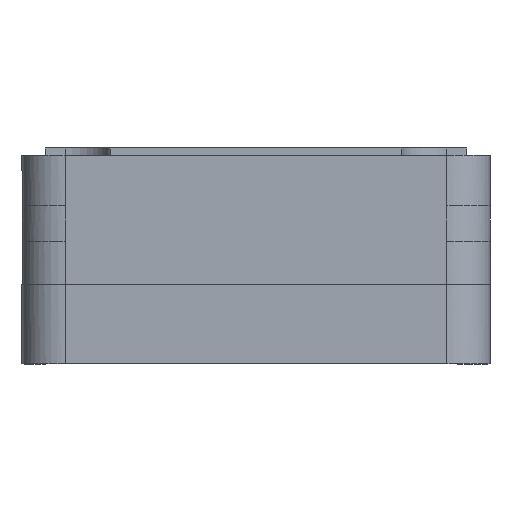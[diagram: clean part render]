
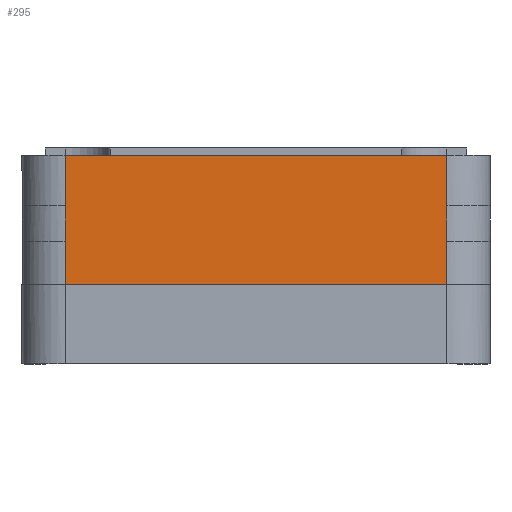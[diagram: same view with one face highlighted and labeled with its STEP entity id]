
A CAD part, front view. The second image highlights one B-rep face of the part: STEP entity #295.
In plain terms, the highlighted planar face has unit normal (0, -1, 0).
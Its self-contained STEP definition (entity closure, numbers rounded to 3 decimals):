
#295=ADVANCED_FACE('',(#544),#3969,.T.);
#544=FACE_OUTER_BOUND('',#836,.T.);
#836=EDGE_LOOP('',(#2087,#2088,#2089,#2090,#2091,#2092,#2093,#2094));
#2087=ORIENTED_EDGE('',*,*,#2761,.F.);
#2088=ORIENTED_EDGE('',*,*,#2760,.T.);
#2089=ORIENTED_EDGE('',*,*,#2775,.F.);
#2090=ORIENTED_EDGE('',*,*,#2609,.F.);
#2091=ORIENTED_EDGE('',*,*,#2649,.F.);
#2092=ORIENTED_EDGE('',*,*,#2648,.F.);
#2093=ORIENTED_EDGE('',*,*,#2667,.F.);
#2094=ORIENTED_EDGE('',*,*,#2610,.F.);
#2609=EDGE_CURVE('',#3766,#3763,#3005,.T.);
#2610=EDGE_CURVE('',#3764,#3765,#3006,.T.);
#2648=EDGE_CURVE('',#3806,#3805,#3032,.T.);
#2649=EDGE_CURVE('',#3805,#3766,#3033,.T.);
#2667=EDGE_CURVE('',#3765,#3806,#3039,.T.);
#2760=EDGE_CURVE('',#3870,#3869,#3104,.T.);
#2761=EDGE_CURVE('',#3870,#3764,#3105,.T.);
#2775=EDGE_CURVE('',#3763,#3869,#3115,.T.);
#3005=B_SPLINE_CURVE_WITH_KNOTS('',1,(#6621,#6622),.UNSPECIFIED.,.F.,.F.,
(2,2),(17.,18.),.UNSPECIFIED.);
#3006=B_SPLINE_CURVE_WITH_KNOTS('',1,(#6623,#6624),.UNSPECIFIED.,.F.,.F.,
(2,2),(7.,8.),.UNSPECIFIED.);
#3032=B_SPLINE_CURVE_WITH_KNOTS('',1,(#6725,#6726,#6727,#6728),
 .UNSPECIFIED.,.F.,.F.,(2,1,1,2),(-59.,-53.,-12.,-6.),.UNSPECIFIED.);
#3033=B_SPLINE_CURVE_WITH_KNOTS('',1,(#6729,#6730),.UNSPECIFIED.,.F.,.F.,
(2,2),(0.,17.),.UNSPECIFIED.);
#3039=B_SPLINE_CURVE_WITH_KNOTS('',1,(#6769,#6770),.UNSPECIFIED.,.F.,.F.,
(2,2),(8.,25.),.UNSPECIFIED.);
#3104=B_SPLINE_CURVE_WITH_KNOTS('',1,(#7005,#7006,#7007,#7008),
 .UNSPECIFIED.,.F.,.F.,(2,1,1,2),(-59.,-53.,-12.,-6.),
 .UNSPECIFIED.);
#3105=B_SPLINE_CURVE_WITH_KNOTS('',1,(#7009,#7010),.UNSPECIFIED.,.F.,.F.,
(2,2),(0.,7.),.UNSPECIFIED.);
#3115=B_SPLINE_CURVE_WITH_KNOTS('',1,(#7041,#7042),.UNSPECIFIED.,.F.,.F.,
(2,2),(18.,25.),.UNSPECIFIED.);
#3763=VERTEX_POINT('',#6353);
#3764=VERTEX_POINT('',#6354);
#3765=VERTEX_POINT('',#6355);
#3766=VERTEX_POINT('',#6356);
#3805=VERTEX_POINT('',#6395);
#3806=VERTEX_POINT('',#6396);
#3869=VERTEX_POINT('',#6459);
#3870=VERTEX_POINT('',#6460);
#3969=PLANE('',#4396);
#4396=AXIS2_PLACEMENT_3D('',#6288,#4624,$);
#4624=DIRECTION('',(0.,-1.,0.));
#6288=CARTESIAN_POINT('',(0.7,240.,0.));
#6353=CARTESIAN_POINT('',(6.,240.,22.));
#6354=CARTESIAN_POINT('',(59.,240.,22.));
#6355=CARTESIAN_POINT('',(59.,240.,17.));
#6356=CARTESIAN_POINT('',(6.,240.,17.));
#6395=CARTESIAN_POINT('',(6.,240.,0.));
#6396=CARTESIAN_POINT('',(59.,240.,0.));
#6459=CARTESIAN_POINT('',(6.,240.,29.));
#6460=CARTESIAN_POINT('',(59.,240.,29.));
#6621=CARTESIAN_POINT('',(6.,240.,17.));
#6622=CARTESIAN_POINT('',(6.,240.,22.));
#6623=CARTESIAN_POINT('',(59.,240.,22.));
#6624=CARTESIAN_POINT('',(59.,240.,17.));
#6725=CARTESIAN_POINT('',(59.,240.,0.));
#6726=CARTESIAN_POINT('',(53.,240.,0.));
#6727=CARTESIAN_POINT('',(12.,240.,0.));
#6728=CARTESIAN_POINT('',(6.,240.,0.));
#6729=CARTESIAN_POINT('',(6.,240.,0.));
#6730=CARTESIAN_POINT('',(6.,240.,17.));
#6769=CARTESIAN_POINT('',(59.,240.,17.));
#6770=CARTESIAN_POINT('',(59.,240.,0.));
#7005=CARTESIAN_POINT('',(59.,240.,29.));
#7006=CARTESIAN_POINT('',(53.,240.,29.));
#7007=CARTESIAN_POINT('',(12.,240.,29.));
#7008=CARTESIAN_POINT('',(6.,240.,29.));
#7009=CARTESIAN_POINT('',(59.,240.,29.));
#7010=CARTESIAN_POINT('',(59.,240.,22.));
#7041=CARTESIAN_POINT('',(6.,240.,22.));
#7042=CARTESIAN_POINT('',(6.,240.,29.));
